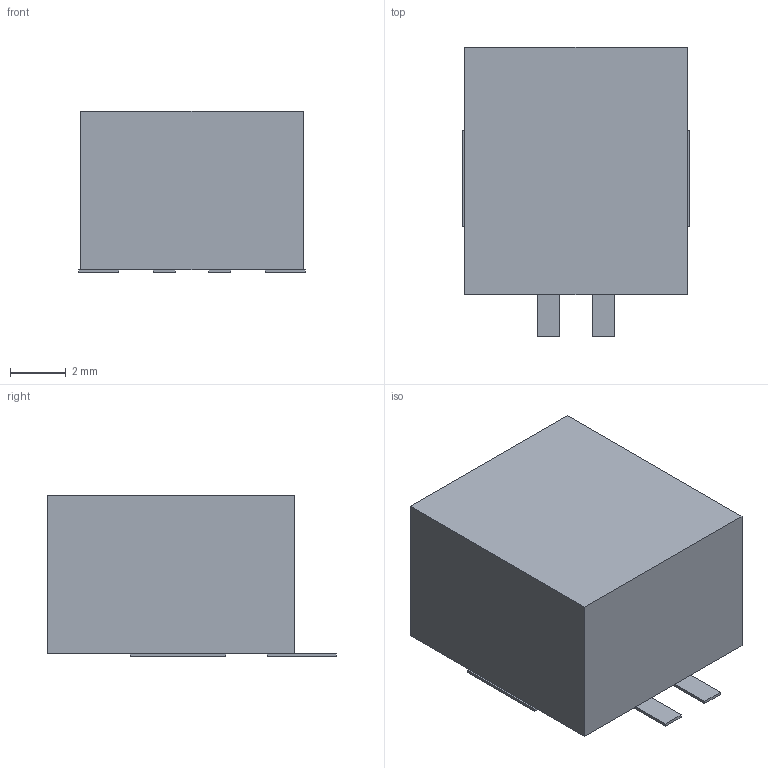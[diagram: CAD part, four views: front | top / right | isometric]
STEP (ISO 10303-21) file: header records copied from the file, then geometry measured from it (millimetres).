
FILE_DESCRIPTION(('FreeCAD Model'),'2;1');
FILE_NAME('/var/www/3D/0T/1153095.1.2.stp','2020-04-09T23:03:42',( 'Author'),(''),'Open CASCADE STEP processor 6.9','FreeCAD','Unknown' );
FILE_SCHEMA(('AUTOMOTIVE_DESIGN { 1 0 10303 214 1 1 1 1 }'));
Length unit declared in the file: millimetre
Products named in the file (3): ASSEMBLY; Body; Pins
Assembly tree (2 placements, depth 2):
  ASSEMBLY
    Body
    Pins
Bounding box: 8.14 x 10.4 x 5.8 mm (x, y, z)
Volume: 407.2 mm3; surface area: 366.1 mm2
Topology: 5 solids, 5 shells, 30 faces, 60 edges, 40 vertices
Faces by surface type: plane 30
Entity records: 1631 total; most frequent: CARTESIAN_POINT 253, DIRECTION 246, LINE 180, VECTOR 180, ORIENTED_EDGE 120, PCURVE 120, DEFINITIONAL_REPRESENTATION 120, EDGE_CURVE 60
